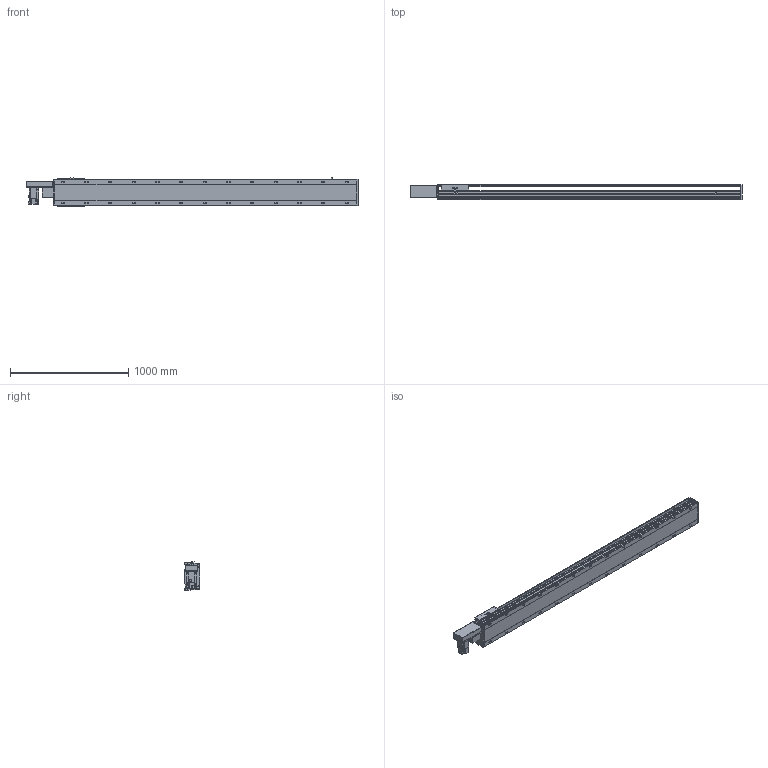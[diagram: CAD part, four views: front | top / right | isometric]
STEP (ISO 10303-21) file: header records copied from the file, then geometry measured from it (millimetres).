
FILE_DESCRIPTION(/* description */ ('STEP AP214'),/* implementation_level */ '2;1');
FILE_NAME(/* name */ 'PBS220-P40-S2200-R-T75-C1-N(0)',/* time_stamp */ '2022-06-11T10:02:30+02:00',/* author */ ('License CC BY-ND 4.0'),/* organization */ ('CADENAS'),/* preprocessor_version */ 'ST-DEVELOPER v18.102',/* originating_system */ 'PARTsolutions',/* authorisation */ ' ');
FILE_SCHEMA (('AUTOMOTIVE_DESIGN {1 0 10303 214 3 1 1}'));
Length unit declared in the file: millimetre
Products named in the file (7): PBS220-P40-S2200-R-T75-C1-N(0); PBS220_sensor; PBS220_plant; PBS220_sliser; T75-p1; PBS220T-R_motors; PBS220-S2200()_body
Assembly tree (8 placements, depth 2):
  PBS220-P40-S2200-R-T75-C1-N(0)
    PBS220_sensor  x3
    PBS220_plant
    PBS220_sliser
    T75-p1
    PBS220T-R_motors
    PBS220-S2200()_body
Bounding box: 2806 x 134 x 238.5 mm (x, y, z)
Volume: 37622580.1 mm3; surface area: 3474218 mm2
Topology: 8 solids, 8 shells, 974 faces, 2536 edges, 1648 vertices
Faces by surface type: plane 618, cylinder 306, cone 50
Full cylindrical faces by diameter (mm): 2.013 x4, 4.5 x14, 4.917 x4, 6 x7, 6.647 x8, 8 x10, 8.376 x26, 8.5 x26, 10 x6, 14 x26, 38 x2, 40 x1, 70 x1
Entity records: 27189 total; most frequent: CARTESIAN_POINT 4822, DIRECTION 4725, ORIENTED_EDGE 4286, EDGE_CURVE 2143, AXIS2_PLACEMENT_3D 1685, VERTEX_POINT 1496, LINE 1355, VECTOR 1355
